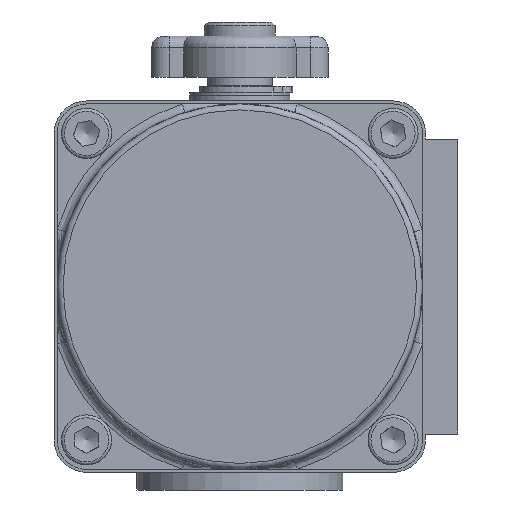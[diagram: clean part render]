
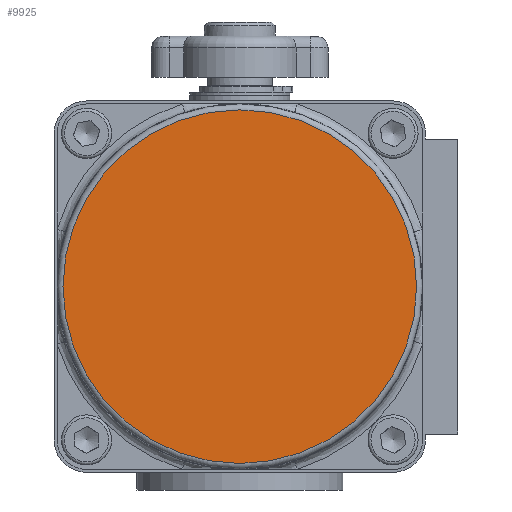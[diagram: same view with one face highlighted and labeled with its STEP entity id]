
A CAD part, left-side view. The second image highlights one B-rep face of the part: STEP entity #9925.
In plain terms, the highlighted planar face has unit normal (-1, 0, 0).
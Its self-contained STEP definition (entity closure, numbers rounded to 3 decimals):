
#9743=CARTESIAN_POINT('',(-41.8,0.,1.5));
#9744=VERTEX_POINT('',#9743);
#9745=CARTESIAN_POINT('',(-41.8,0.,31.5));
#9746=DIRECTION('',(1.0,0.0,0.0));
#9747=DIRECTION('',(0.0,0.0,1.0));
#9748=AXIS2_PLACEMENT_3D('',#9745,#9746,#9747);
#9749=CIRCLE('',#9748,30.0);
#9750=EDGE_CURVE('',#9744,#9744,#9749,.T.);
#9917=CARTESIAN_POINT('',(-41.8,0.,31.5));
#9918=DIRECTION('',(1.0,0.0,0.0));
#9919=DIRECTION('',(0.0,0.0,1.0));
#9920=AXIS2_PLACEMENT_3D('',#9917,#9918,#9919);
#9921=PLANE('',#9920);
#9922=ORIENTED_EDGE('',*,*,#9750,.F.);
#9923=EDGE_LOOP('',(#9922));
#9924=FACE_OUTER_BOUND('',#9923,.T.);
#9925=ADVANCED_FACE('',(#9924),#9921,.F.);
